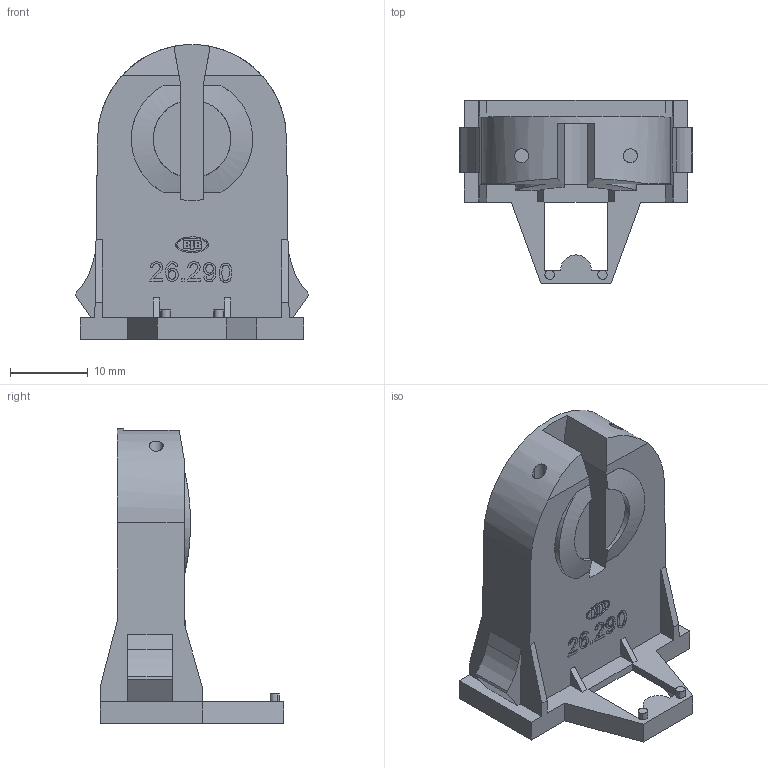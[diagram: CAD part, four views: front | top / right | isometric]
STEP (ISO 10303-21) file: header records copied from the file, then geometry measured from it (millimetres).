
FILE_DESCRIPTION((' '),'1');
FILE_NAME('005YK1WY04.stp','2014-04-28 T08:18:35',(''),(''),'STEP Interface 2013.192 by CT CoreTechnologie','3D_Evolution2013.192 by CT CoreTechnologie','');
FILE_SCHEMA(('AP203_CONFIGURATION_CONTROLLED_3D_DESIGN_OF_MECHANICAL_PARTS_AND_ASSEMBLIES_MIM_LF'));
Length unit declared in the file: millimetre
Products named in the file (1): 005YK1WY04
Bounding box: 30 x 23.6 x 37.95 mm (x, y, z)
Volume: 6960.6 mm3; surface area: 4334.2 mm2
Topology: 1 solids, 1 shells, 248 faces, 665 edges, 442 vertices
Faces by surface type: plane 152, cylinder 87, bspline 9
Entity records: 10307 total; most frequent: CARTESIAN_POINT 2011, ORIENTED_EDGE 1330, DIRECTION 1277, EDGE_CURVE 665, VECTOR 465, LINE 465, VERTEX_POINT 442, AXIS2_PLACEMENT_3D 406
